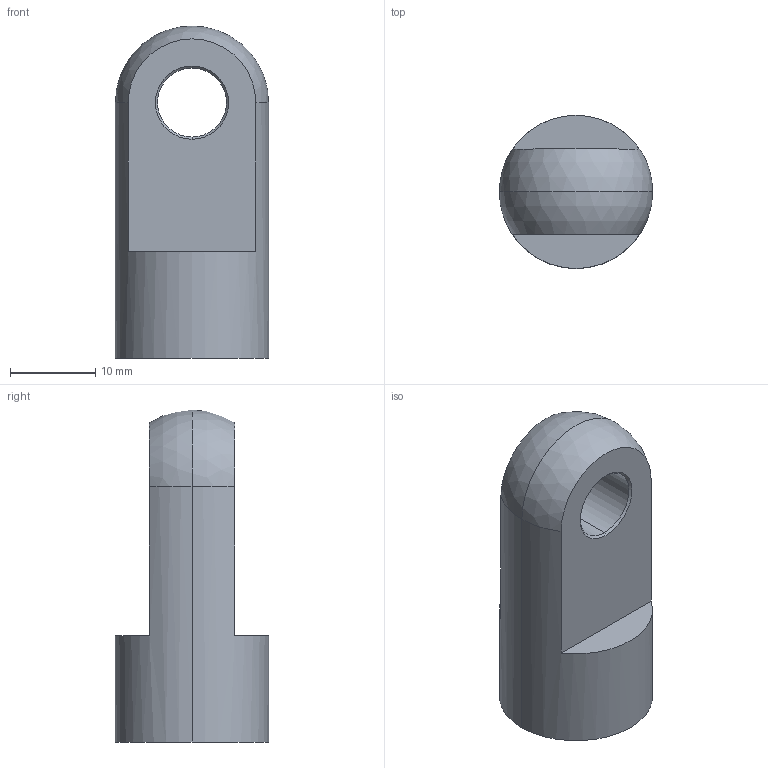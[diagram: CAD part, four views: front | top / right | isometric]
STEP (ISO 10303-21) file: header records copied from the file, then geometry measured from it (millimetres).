
FILE_DESCRIPTION (( 'STEP AP214' ), '1' );
FILE_NAME ('18.09N2T.STEP', '2017-10-23T12:55:59', ( '' ), ( '' ), 'SwSTEP 2.0', 'SolidWorks 2016', '' );
FILE_SCHEMA (( 'AUTOMOTIVE_DESIGN' ));
Length unit declared in the file: millimetre
Products named in the file (1): 18.09N2T
Bounding box: 18 x 18 x 39 mm (x, y, z)
Volume: 6052.2 mm3; surface area: 2865.7 mm2
Topology: 1 solids, 1 shells, 21 faces, 48 edges, 28 vertices
Faces by surface type: cone 8, cylinder 6, plane 5, sphere 2
Entity records: 620 total; most frequent: DIRECTION 116, CARTESIAN_POINT 96, ORIENTED_EDGE 92, AXIS2_PLACEMENT_3D 48, EDGE_CURVE 46, VERTEX_POINT 28, CIRCLE 26, EDGE_LOOP 24
